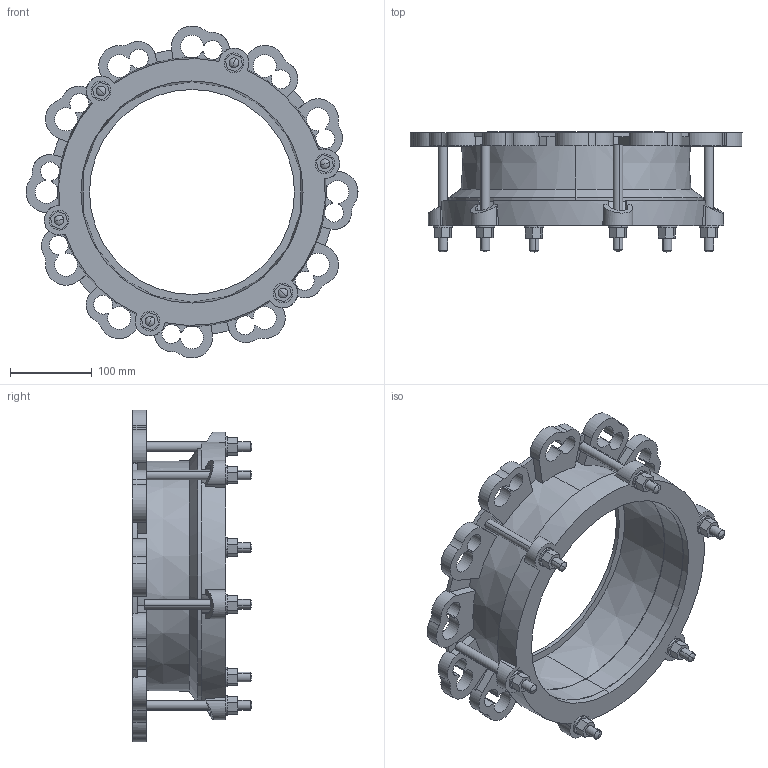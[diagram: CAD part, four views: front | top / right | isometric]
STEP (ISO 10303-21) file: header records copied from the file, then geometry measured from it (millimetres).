
FILE_DESCRIPTION((''),'2;1');
FILE_NAME('BIM_12419_9','2018-10-09T',('MReader'),(''),'CREO PARAMETRIC BY PTC INC, 2016130','CREO PARAMETRIC BY PTC INC, 2016130','');
FILE_SCHEMA(('CONFIG_CONTROL_DESIGN'));
Length unit declared in the file: millimetre
Products named in the file (1): BIM_12419_9
Bounding box: 404.96 x 146 x 404.96 mm (x, y, z)
Volume: 1930352.5 mm3; surface area: 565168.8 mm2
Topology: 2 solids, 2 shells, 354 faces, 948 edges, 614 vertices
Faces by surface type: cylinder 164, plane 146, cone 32, sphere 12
Entity records: 11675 total; most frequent: CARTESIAN_POINT 2530, DIRECTION 1989, ORIENTED_EDGE 1872, EDGE_CURVE 936, AXIS2_PLACEMENT_3D 771, VERTEX_POINT 614, VECTOR 447, LINE 447
